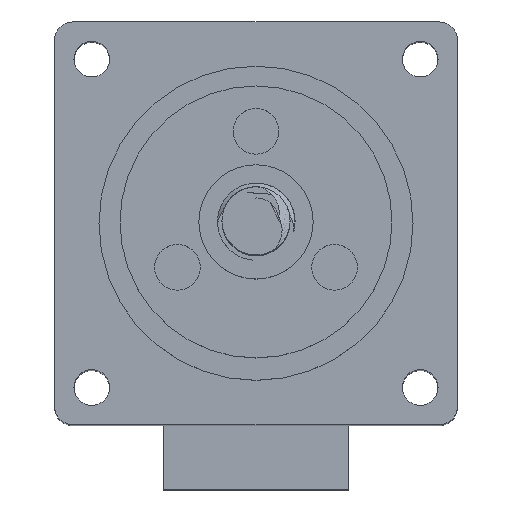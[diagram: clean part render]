
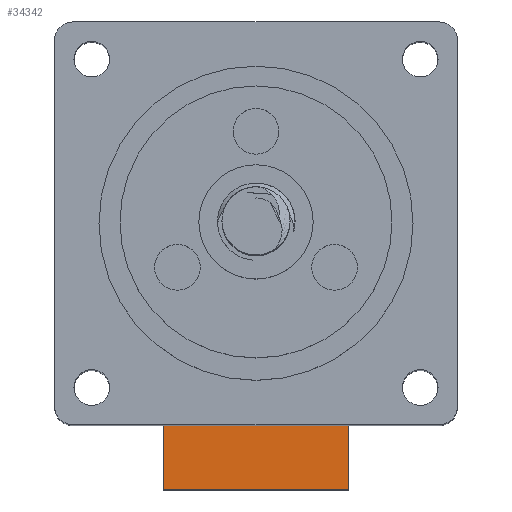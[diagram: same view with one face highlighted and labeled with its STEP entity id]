
A CAD part, top view. The second image highlights one B-rep face of the part: STEP entity #34342.
In plain terms, the highlighted planar face has unit normal (0, 0, 1).
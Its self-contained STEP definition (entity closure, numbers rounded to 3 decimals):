
#32042 = PLANE('',#32043);
#32043 = AXIS2_PLACEMENT_3D('',#32044,#32045,#32046);
#32044 = CARTESIAN_POINT('',(-12.85,-14.1,45.));
#32045 = DIRECTION('',(0.,1.,0.));
#32046 = DIRECTION('',(0.,0.,1.));
#32118 = VERTEX_POINT('',#32119);
#32119 = CARTESIAN_POINT('',(-6.5,-14.1,8.));
#32133 = PLANE('',#32134);
#32134 = AXIS2_PLACEMENT_3D('',#32135,#32136,#32137);
#32135 = CARTESIAN_POINT('',(-6.5,-18.6,0.));
#32136 = DIRECTION('',(1.,0.,0.));
#32137 = DIRECTION('',(0.,0.,-1.));
#32145 = EDGE_CURVE('',#32146,#32118,#32148,.T.);
#32146 = VERTEX_POINT('',#32147);
#32147 = CARTESIAN_POINT('',(6.5,-14.1,8.));
#32148 = SURFACE_CURVE('',#32149,(#32153,#32160),.PCURVE_S1.);
#32149 = LINE('',#32150,#32151);
#32150 = CARTESIAN_POINT('',(-6.5,-14.1,8.));
#32151 = VECTOR('',#32152,1.);
#32152 = DIRECTION('',(-1.,0.,0.));
#32153 = PCURVE('',#32042,#32154);
#32154 = DEFINITIONAL_REPRESENTATION('',(#32155),#32159);
#32155 = LINE('',#32156,#32157);
#32156 = CARTESIAN_POINT('',(-37.,6.35));
#32157 = VECTOR('',#32158,1.);
#32158 = DIRECTION('',(0.,-1.));
#32159 = ( GEOMETRIC_REPRESENTATION_CONTEXT(2) 
PARAMETRIC_REPRESENTATION_CONTEXT() REPRESENTATION_CONTEXT('2D SPACE',''
  ) );
#32160 = PCURVE('',#32161,#32166);
#32161 = PLANE('',#32162);
#32162 = AXIS2_PLACEMENT_3D('',#32163,#32164,#32165);
#32163 = CARTESIAN_POINT('',(-6.5,-18.6,8.));
#32164 = DIRECTION('',(0.,0.,-1.));
#32165 = DIRECTION('',(-1.,0.,0.));
#32166 = DEFINITIONAL_REPRESENTATION('',(#32167),#32171);
#32167 = LINE('',#32168,#32169);
#32168 = CARTESIAN_POINT('',(0.,4.5));
#32169 = VECTOR('',#32170,1.);
#32170 = DIRECTION('',(1.,0.));
#32171 = ( GEOMETRIC_REPRESENTATION_CONTEXT(2) 
PARAMETRIC_REPRESENTATION_CONTEXT() REPRESENTATION_CONTEXT('2D SPACE',''
  ) );
#32189 = PLANE('',#32190);
#32190 = AXIS2_PLACEMENT_3D('',#32191,#32192,#32193);
#32191 = CARTESIAN_POINT('',(6.5,-18.6,0.));
#32192 = DIRECTION('',(-1.,0.,0.));
#32193 = DIRECTION('',(0.,0.,1.));
#34205 = PLANE('',#34206);
#34206 = AXIS2_PLACEMENT_3D('',#34207,#34208,#34209);
#34207 = CARTESIAN_POINT('',(-6.5,-18.6,8.));
#34208 = DIRECTION('',(0.,1.,0.));
#34209 = DIRECTION('',(0.,0.,1.));
#34251 = VERTEX_POINT('',#34252);
#34252 = CARTESIAN_POINT('',(-6.5,-18.6,8.));
#34273 = EDGE_CURVE('',#34251,#32118,#34274,.T.);
#34274 = SURFACE_CURVE('',#34275,(#34279,#34286),.PCURVE_S1.);
#34275 = LINE('',#34276,#34277);
#34276 = CARTESIAN_POINT('',(-6.5,-18.6,8.));
#34277 = VECTOR('',#34278,1.);
#34278 = DIRECTION('',(0.,1.,0.));
#34279 = PCURVE('',#32133,#34280);
#34280 = DEFINITIONAL_REPRESENTATION('',(#34281),#34285);
#34281 = LINE('',#34282,#34283);
#34282 = CARTESIAN_POINT('',(-8.,0.));
#34283 = VECTOR('',#34284,1.);
#34284 = DIRECTION('',(0.,1.));
#34285 = ( GEOMETRIC_REPRESENTATION_CONTEXT(2) 
PARAMETRIC_REPRESENTATION_CONTEXT() REPRESENTATION_CONTEXT('2D SPACE',''
  ) );
#34286 = PCURVE('',#32161,#34287);
#34287 = DEFINITIONAL_REPRESENTATION('',(#34288),#34292);
#34288 = LINE('',#34289,#34290);
#34289 = CARTESIAN_POINT('',(0.,0.));
#34290 = VECTOR('',#34291,1.);
#34291 = DIRECTION('',(0.,1.));
#34292 = ( GEOMETRIC_REPRESENTATION_CONTEXT(2) 
PARAMETRIC_REPRESENTATION_CONTEXT() REPRESENTATION_CONTEXT('2D SPACE',''
  ) );
#34298 = EDGE_CURVE('',#34299,#32146,#34301,.T.);
#34299 = VERTEX_POINT('',#34300);
#34300 = CARTESIAN_POINT('',(6.5,-18.6,8.));
#34301 = SURFACE_CURVE('',#34302,(#34306,#34313),.PCURVE_S1.);
#34302 = LINE('',#34303,#34304);
#34303 = CARTESIAN_POINT('',(6.5,-18.6,8.));
#34304 = VECTOR('',#34305,1.);
#34305 = DIRECTION('',(0.,1.,0.));
#34306 = PCURVE('',#32189,#34307);
#34307 = DEFINITIONAL_REPRESENTATION('',(#34308),#34312);
#34308 = LINE('',#34309,#34310);
#34309 = CARTESIAN_POINT('',(8.,0.));
#34310 = VECTOR('',#34311,1.);
#34311 = DIRECTION('',(0.,1.));
#34312 = ( GEOMETRIC_REPRESENTATION_CONTEXT(2) 
PARAMETRIC_REPRESENTATION_CONTEXT() REPRESENTATION_CONTEXT('2D SPACE',''
  ) );
#34313 = PCURVE('',#32161,#34314);
#34314 = DEFINITIONAL_REPRESENTATION('',(#34315),#34319);
#34315 = LINE('',#34316,#34317);
#34316 = CARTESIAN_POINT('',(-13.,0.));
#34317 = VECTOR('',#34318,1.);
#34318 = DIRECTION('',(0.,1.));
#34319 = ( GEOMETRIC_REPRESENTATION_CONTEXT(2) 
PARAMETRIC_REPRESENTATION_CONTEXT() REPRESENTATION_CONTEXT('2D SPACE',''
  ) );
#34342 = ADVANCED_FACE('',(#34343),#32161,.F.);
#34343 = FACE_BOUND('',#34344,.T.);
#34344 = EDGE_LOOP('',(#34345,#34346,#34347,#34368));
#34345 = ORIENTED_EDGE('',*,*,#32145,.T.);
#34346 = ORIENTED_EDGE('',*,*,#34273,.F.);
#34347 = ORIENTED_EDGE('',*,*,#34348,.F.);
#34348 = EDGE_CURVE('',#34299,#34251,#34349,.T.);
#34349 = SURFACE_CURVE('',#34350,(#34354,#34361),.PCURVE_S1.);
#34350 = LINE('',#34351,#34352);
#34351 = CARTESIAN_POINT('',(-6.5,-18.6,8.));
#34352 = VECTOR('',#34353,1.);
#34353 = DIRECTION('',(-1.,0.,0.));
#34354 = PCURVE('',#32161,#34355);
#34355 = DEFINITIONAL_REPRESENTATION('',(#34356),#34360);
#34356 = LINE('',#34357,#34358);
#34357 = CARTESIAN_POINT('',(0.,0.));
#34358 = VECTOR('',#34359,1.);
#34359 = DIRECTION('',(1.,0.));
#34360 = ( GEOMETRIC_REPRESENTATION_CONTEXT(2) 
PARAMETRIC_REPRESENTATION_CONTEXT() REPRESENTATION_CONTEXT('2D SPACE',''
  ) );
#34361 = PCURVE('',#34205,#34362);
#34362 = DEFINITIONAL_REPRESENTATION('',(#34363),#34367);
#34363 = LINE('',#34364,#34365);
#34364 = CARTESIAN_POINT('',(0.,0.));
#34365 = VECTOR('',#34366,1.);
#34366 = DIRECTION('',(0.,-1.));
#34367 = ( GEOMETRIC_REPRESENTATION_CONTEXT(2) 
PARAMETRIC_REPRESENTATION_CONTEXT() REPRESENTATION_CONTEXT('2D SPACE',''
  ) );
#34368 = ORIENTED_EDGE('',*,*,#34298,.T.);
